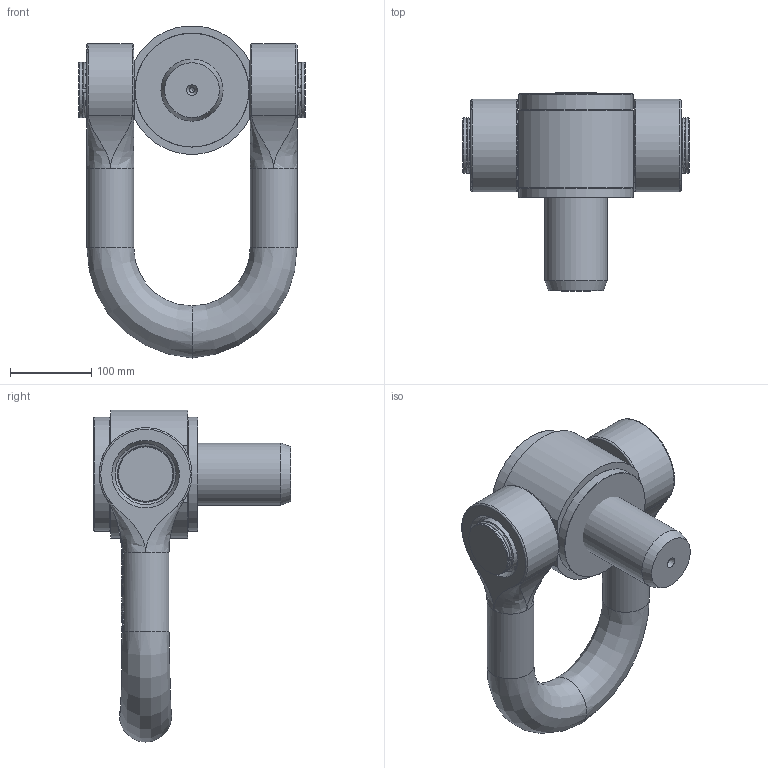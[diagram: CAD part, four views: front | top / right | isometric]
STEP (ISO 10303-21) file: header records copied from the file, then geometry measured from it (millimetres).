
FILE_DESCRIPTION(/* description */ (''),/* implementation_level */ '2;1');
FILE_NAME(/* name */ 'W:\CODIPRO\DOCUMENTS\Plans A NE PAS DIFFUSER !!!\Fichiers STEP (3D)\Gamme 2018\Produits GRADUP\MEGA DSS + UP\MEGA DSS + U300 UP.stp',/* time_stamp */ '2023-05-30T13:49:54+02:00',/* author */ ('mmagerotte'),/* organization */ (''),/* preprocessor_version */ 'ST-DEVELOPER v17',/* originating_system */ 'Autodesk Inventor 2019',/* authorisation */ '');
FILE_SCHEMA (('AUTOMOTIVE_DESIGN { 1 0 10303 214 3 1 1 }'));
Length unit declared in the file: millimetre
Products named in the file (7): MEGA DSS +  U300 UP; DSS_N5X110; DSM_N5X110; DSM_N5; DIN 7993 - A 65; DSA_U3X222_UP+; DSE_U3A
Assembly tree (7 placements, depth 3):
  MEGA DSS +  U300 UP
    DSS_N5X110
      DSM_N5X110
      DSM_N5
      DIN 7993 - A 65  x2
    DSA_U3X222_UP+
    DSE_U3A
Bounding box: 278 x 243 x 407.71 mm (x, y, z)
Volume: 5726198.1 mm3; surface area: 486632 mm2
Topology: 6 solids, 6 shells, 1033 faces, 2836 edges, 1886 vertices
Faces by surface type: plane 478, bspline 437, cylinder 78, cone 27, torus 13
Full cylindrical faces by diameter (mm): 6.3 x1, 57.5 x2, 68 x4, 69.2 x2, 69.317 x1, 76.2 x1, 77 x1, 110 x4, 140 x2
Entity records: 40193 total; most frequent: CARTESIAN_POINT 16732, ORIENTED_EDGE 5660, DIRECTION 3263, EDGE_CURVE 2830, VERTEX_POINT 1882, LINE 1489, VECTOR 1489, EDGE_LOOP 1110
